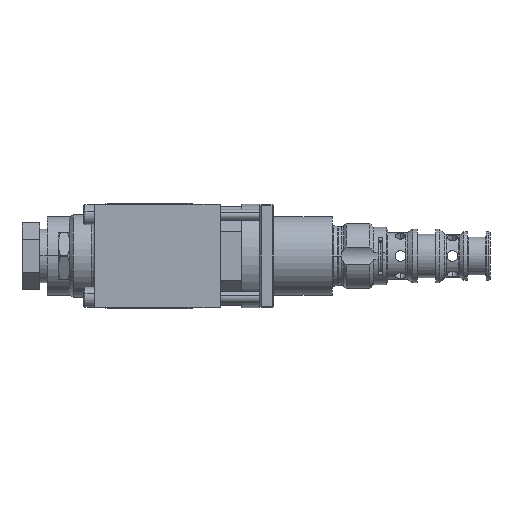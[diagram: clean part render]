
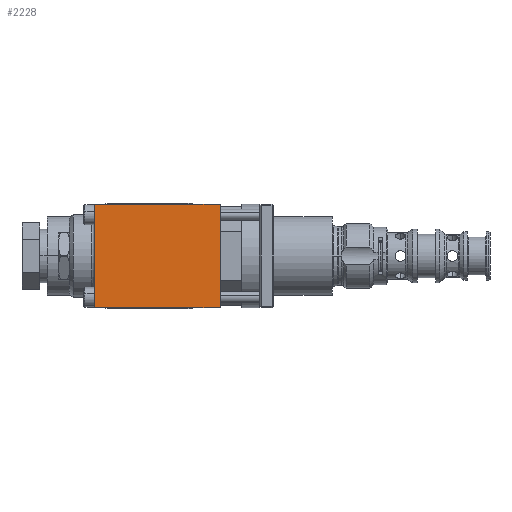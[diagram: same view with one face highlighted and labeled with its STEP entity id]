
A CAD part, front view. The second image highlights one B-rep face of the part: STEP entity #2228.
In plain terms, the highlighted planar face has unit normal (0, -1, 0).
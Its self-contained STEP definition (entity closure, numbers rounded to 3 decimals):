
#243 = CARTESIAN_POINT ( 'NONE',  ( -35., -14.5, 14.5 ) ) ;
#570 = DIRECTION ( 'NONE',  ( -1., 0., 0. ) ) ;
#735 = ORIENTED_EDGE ( 'NONE', *, *, #15544, .F. ) ;
#1161 = LINE ( 'NONE', #28399, #6106 ) ;
#1606 = VECTOR ( 'NONE', #570, 1000. ) ;
#1829 = DIRECTION ( 'NONE',  ( -1., 0., 0. ) ) ;
#2228 = ADVANCED_FACE ( 'NONE', ( #23935 ), #32277, .F. ) ;
#2835 = CARTESIAN_POINT ( 'NONE',  ( -35., -14.5, -15.207 ) ) ;
#3062 = LINE ( 'NONE', #2835, #10428 ) ;
#6106 = VECTOR ( 'NONE', #30821, 1000. ) ;
#6787 = AXIS2_PLACEMENT_3D ( 'NONE', #9888, #13732, #11975 ) ;
#9888 = CARTESIAN_POINT ( 'NONE',  ( 0., -14.5, 14.5 ) ) ;
#10428 = VECTOR ( 'NONE', #20787, 1000. ) ;
#11975 = DIRECTION ( 'NONE',  ( 0., 0., 1. ) ) ;
#12189 = LINE ( 'NONE', #21246, #1606 ) ;
#13732 = DIRECTION ( 'NONE',  ( 0., 1., 0. ) ) ;
#14018 = ORIENTED_EDGE ( 'NONE', *, *, #15190, .F. ) ;
#15094 = EDGE_CURVE ( 'NONE', #23997, #26562, #24167, .T. ) ;
#15190 = EDGE_CURVE ( 'NONE', #23631, #23997, #1161, .T. ) ;
#15235 = EDGE_CURVE ( 'NONE', #23631, #29183, #12189, .T. ) ;
#15544 = EDGE_CURVE ( 'NONE', #26562, #29183, #3062, .T. ) ;
#16250 = VECTOR ( 'NONE', #1829, 1000. ) ;
#20541 = ORIENTED_EDGE ( 'NONE', *, *, #15235, .T. ) ;
#20787 = DIRECTION ( 'NONE',  ( 0., 0., 1. ) ) ;
#21246 = CARTESIAN_POINT ( 'NONE',  ( 0.707, -14.5, 14.5 ) ) ;
#21402 = CARTESIAN_POINT ( 'NONE',  ( 0., -14.5, -14.5 ) ) ;
#23631 = VERTEX_POINT ( 'NONE', #26751 ) ;
#23935 = FACE_OUTER_BOUND ( 'NONE', #27644, .T. ) ;
#23997 = VERTEX_POINT ( 'NONE', #21402 ) ;
#24167 = LINE ( 'NONE', #32182, #16250 ) ;
#24904 = ORIENTED_EDGE ( 'NONE', *, *, #15094, .F. ) ;
#26562 = VERTEX_POINT ( 'NONE', #32801 ) ;
#26751 = CARTESIAN_POINT ( 'NONE',  ( 0., -14.5, 14.5 ) ) ;
#27644 = EDGE_LOOP ( 'NONE', ( #20541, #735, #24904, #14018 ) ) ;
#28399 = CARTESIAN_POINT ( 'NONE',  ( 0., -14.5, 14.5 ) ) ;
#29183 = VERTEX_POINT ( 'NONE', #243 ) ;
#30821 = DIRECTION ( 'NONE',  ( 0., 0., -1. ) ) ;
#32182 = CARTESIAN_POINT ( 'NONE',  ( 0.707, -14.5, -14.5 ) ) ;
#32277 = PLANE ( 'NONE',  #6787 ) ;
#32801 = CARTESIAN_POINT ( 'NONE',  ( -35., -14.5, -14.5 ) ) ;
